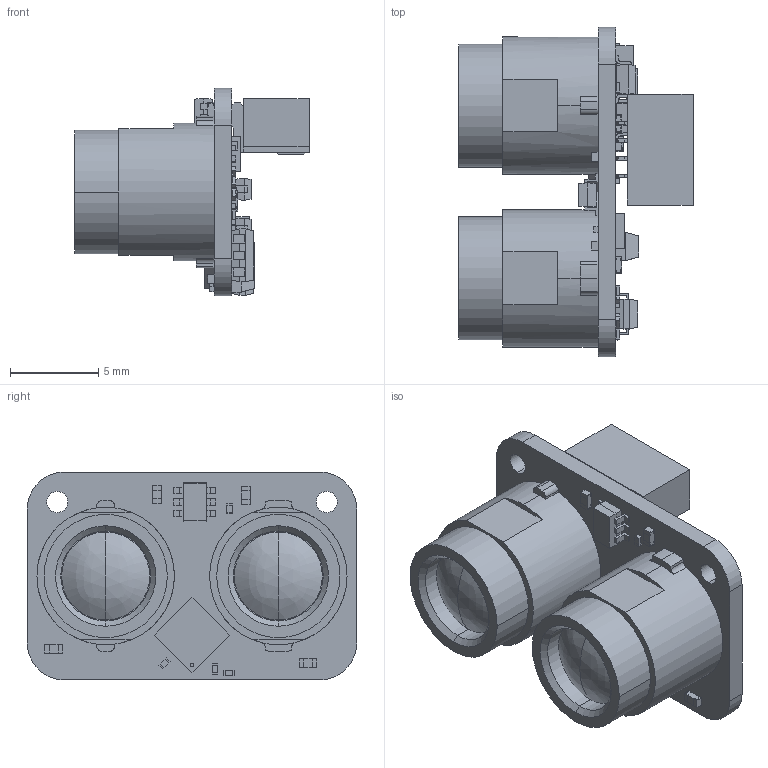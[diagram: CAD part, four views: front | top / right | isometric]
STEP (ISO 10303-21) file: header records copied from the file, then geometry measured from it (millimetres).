
FILE_DESCRIPTION(/* description */ (''),/* implementation_level */ '2;1');
FILE_NAME(/* name */ '模块',/* time_stamp */ '2025-04-23T15:26:18+08:00',/* author */ (''),/* organization */ (''),/* preprocessor_version */ 'ST-DEVELOPER v19.2',/* originating_system */ 'Rhino 8.5',/* authorisation */ '');
FILE_SCHEMA (('CONFIG_CONTROL_DESIGN'));
Length unit declared in the file: millimetre
Products named in the file (1): Document
Bounding box: 13.3 x 18.7 x 11.8 mm (x, y, z)
Surface area: 1286.2 mm2 (no closed solid volume)
Topology: 0 solids, 65 shells, 699 faces, 2916 edges, 2248 vertices
Faces by surface type: plane 628, cylinder 55, bspline 16
Entity records: 28183 total; most frequent: CARTESIAN_POINT 10438, ORIENTED_EDGE 4417, EDGE_CURVE 2916, B_SPLINE_CURVE_WITH_KNOTS 2711, VERTEX_POINT 2248, DIRECTION 1081, AXIS2_PLACEMENT_3D 882, EDGE_LOOP 750
